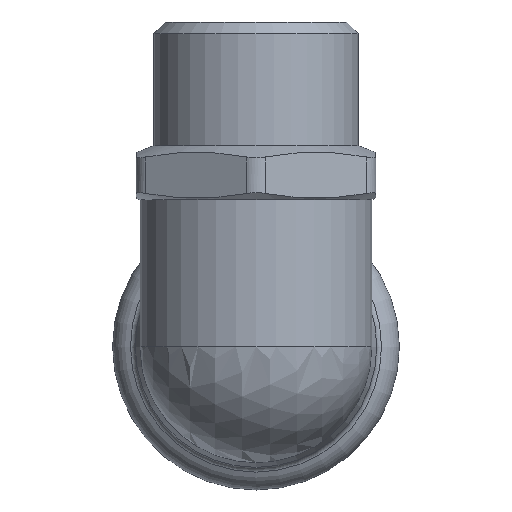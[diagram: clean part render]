
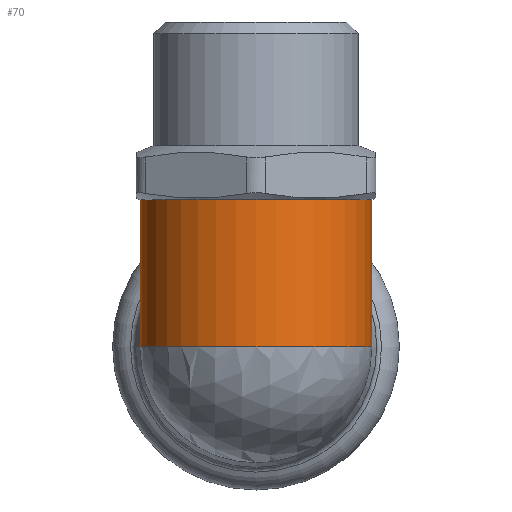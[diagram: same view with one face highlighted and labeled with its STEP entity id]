
A CAD part, front view. The second image highlights one B-rep face of the part: STEP entity #70.
In plain terms, the highlighted cylindrical face has radius 15 mm (diameter 30 mm), a full revolution.
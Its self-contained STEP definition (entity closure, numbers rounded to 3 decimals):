
#70=ADVANCED_FACE('',(#209,#211),#213,.T.);
#209=FACE_BOUND('',#210,.T.);
#210=EDGE_LOOP('',(#396,#397));
#211=FACE_OUTER_BOUND('',#212,.T.);
#212=EDGE_LOOP('',(#398));
#213=CYLINDRICAL_SURFACE('',#214,15.);
#214=AXIS2_PLACEMENT_3D('',#215,#216,#217);
#215=CARTESIAN_POINT('',(0.,-52.,0.));
#216=DIRECTION('',(0.,0.,1.));
#217=DIRECTION('',(-1.,0.,0.));
#396=ORIENTED_EDGE('',*,*,#465,.T.);
#397=ORIENTED_EDGE('',*,*,#466,.F.);
#398=ORIENTED_EDGE('',*,*,#464,.T.);
#464=EDGE_CURVE('',#548,#548,#549,.F.);
#465=EDGE_CURVE('',#550,#551,#552,.F.);
#466=EDGE_CURVE('',#550,#551,#553,.F.);
#548=VERTEX_POINT('',#1714);
#549=CIRCLE('',#1715,15.);
#550=VERTEX_POINT('',#1719);
#551=VERTEX_POINT('',#1720);
#552=(BOUNDED_CURVE()B_SPLINE_CURVE(3,
(#1721,#1722,#1723,#1724),
.UNSPECIFIED.,.F.,.F.)B_SPLINE_CURVE_WITH_KNOTS((4,4),
(0.,1.),
.UNSPECIFIED.)CURVE()GEOMETRIC_REPRESENTATION_ITEM()RATIONAL_B_SPLINE_CURVE((1.,
0.333,0.333,1.))REPRESENTATION_ITEM(''));
#553=CIRCLE('',#1725,15.);
#1714=CARTESIAN_POINT('',(-15.,-52.,19.));
#1715=AXIS2_PLACEMENT_3D('',#1716,#1717,#1718);
#1716=CARTESIAN_POINT('',(0.,-52.,19.));
#1717=DIRECTION('',(0.,0.,1.));
#1718=DIRECTION('',(-1.,0.,0.));
#1719=CARTESIAN_POINT('',(15.,-52.,0.));
#1720=CARTESIAN_POINT('',(-15.,-52.,0.));
#1721=CARTESIAN_POINT('',(-15.,-52.,0.));
#1722=CARTESIAN_POINT('',(-15.,-22.,30.));
#1723=CARTESIAN_POINT('',(15.,-22.,30.));
#1724=CARTESIAN_POINT('',(15.,-52.,0.));
#1725=AXIS2_PLACEMENT_3D('',#1726,#1727,#1728);
#1726=CARTESIAN_POINT('',(0.,-52.,0.));
#1727=DIRECTION('',(0.,0.,1.));
#1728=DIRECTION('',(-1.,0.,0.));
